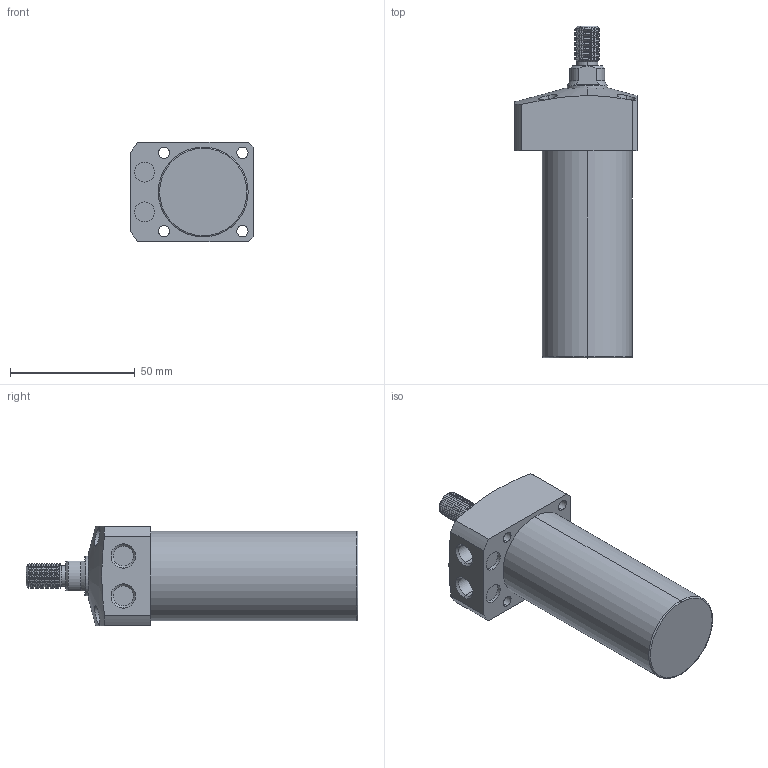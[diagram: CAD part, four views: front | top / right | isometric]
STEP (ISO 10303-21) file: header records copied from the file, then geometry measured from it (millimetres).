
FILE_DESCRIPTION (( 'STEP AP203' ), '1' );
FILE_NAME ('CLL-036CT-060.STEP', '2020-01-08T08:46:16', ( '' ), ( '' ), 'SwSTEP 2.0', 'SolidWorks 2015', '' );
FILE_SCHEMA (( 'CONFIG_CONTROL_DESIGN' ));
Length unit declared in the file: millimetre
Products named in the file (1): CLL-036CT-060
Bounding box: 49 x 133 x 40 mm (x, y, z)
Volume: 127386.1 mm3; surface area: 20043.6 mm2
Topology: 1 solids, 1 shells, 103 faces, 256 edges, 166 vertices
Faces by surface type: cylinder 61, plane 23, cone 15, torus 2, bspline 2
Entity records: 5005 total; most frequent: CARTESIAN_POINT 2609, ORIENTED_EDGE 512, DIRECTION 457, EDGE_CURVE 256, AXIS2_PLACEMENT_3D 184, VERTEX_POINT 166, EDGE_LOOP 122, FACE_OUTER_BOUND 103
